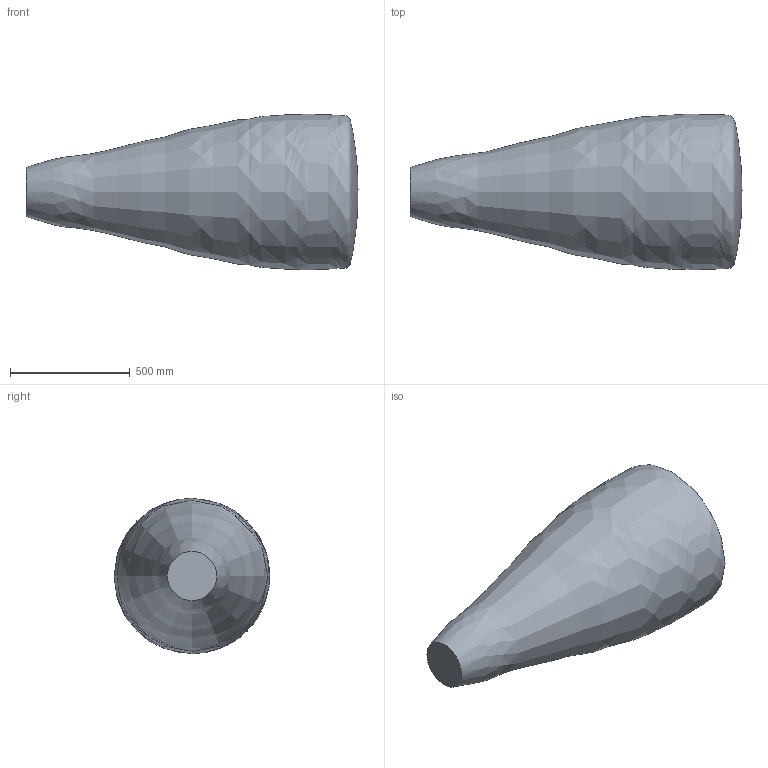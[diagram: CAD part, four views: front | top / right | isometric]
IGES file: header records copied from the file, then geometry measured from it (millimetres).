
Global section: file name: No Iges File Name specified; native system: Autodesk Inventor 2009; preprocessor: AutoDesk Inventor Iges Exporter R2009; author: Oliver Liedtke; date: 20120227.151557; units: millimetre
Bounding box: 1387.14 x 650.2 x 650.15 mm (x, y, z)
Volume: 278346383.8 mm3; surface area: 2438496.1 mm2
Topology: 1 solids, 1 shells, 2 faces, 3 edges, 2 vertices
Faces by surface type: bspline 1, plane 1
